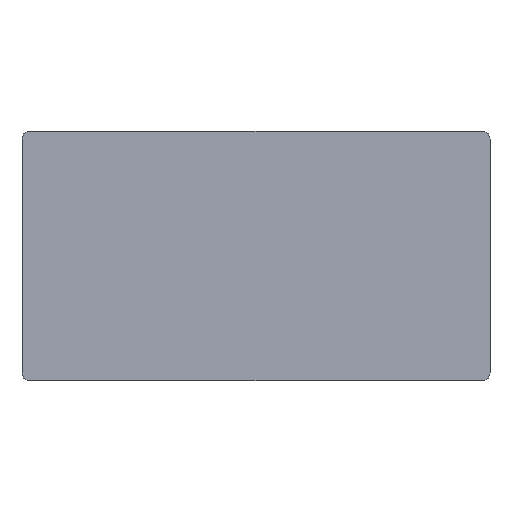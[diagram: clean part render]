
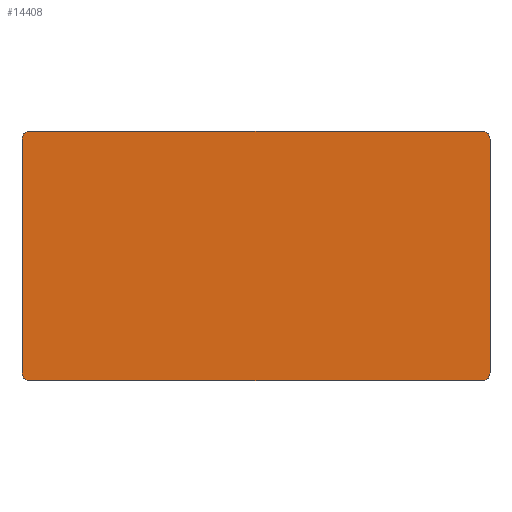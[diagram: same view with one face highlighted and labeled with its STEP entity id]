
A CAD part, front view. The second image highlights one B-rep face of the part: STEP entity #14408.
In plain terms, the highlighted planar face has unit normal (0, -1, 0).
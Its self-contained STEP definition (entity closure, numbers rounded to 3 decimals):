
#237 = CARTESIAN_POINT ( 'NONE',  ( 15., 0., 8. ) ) ;
#411 = VECTOR ( 'NONE', #12587, 1000. ) ;
#1375 = CIRCLE ( 'NONE', #11427, 0.5 ) ;
#1548 = VERTEX_POINT ( 'NONE', #9820 ) ;
#1897 = CARTESIAN_POINT ( 'NONE',  ( 15., 0., -7.5 ) ) ;
#2108 = LINE ( 'NONE', #3073, #5579 ) ;
#2768 = DIRECTION ( 'NONE',  ( 0., 0., 1. ) ) ;
#2980 = AXIS2_PLACEMENT_3D ( 'NONE', #10543, #9500, #4338 ) ;
#3030 = VERTEX_POINT ( 'NONE', #13210 ) ;
#3073 = CARTESIAN_POINT ( 'NONE',  ( -15., 0., 8. ) ) ;
#3491 = VECTOR ( 'NONE', #8330, 1000. ) ;
#4291 = PLANE ( 'NONE',  #14536 ) ;
#4338 = DIRECTION ( 'NONE',  ( 0., 0., 1. ) ) ;
#4585 = CARTESIAN_POINT ( 'NONE',  ( 14.5, 0., -7.5 ) ) ;
#4777 = ORIENTED_EDGE ( 'NONE', *, *, #12694, .T. ) ;
#5579 = VECTOR ( 'NONE', #13228, 1000. ) ;
#5629 = VERTEX_POINT ( 'NONE', #1897 ) ;
#5790 = DIRECTION ( 'NONE',  ( 0., -1., 0. ) ) ;
#5795 = ORIENTED_EDGE ( 'NONE', *, *, #6131, .T. ) ;
#5802 = DIRECTION ( 'NONE',  ( 0., -1., 0. ) ) ;
#6131 = EDGE_CURVE ( 'NONE', #10797, #1548, #11627, .T. ) ;
#6359 = CIRCLE ( 'NONE', #11522, 0.5 ) ;
#6440 = DIRECTION ( 'NONE',  ( 1., 0., 0. ) ) ;
#7084 = EDGE_CURVE ( 'NONE', #11802, #13164, #11232, .T. ) ;
#7104 = ORIENTED_EDGE ( 'NONE', *, *, #12999, .T. ) ;
#7146 = CARTESIAN_POINT ( 'NONE',  ( -14.5, 0., 7.5 ) ) ;
#7177 = DIRECTION ( 'NONE',  ( 0., 0., 1. ) ) ;
#7450 = ORIENTED_EDGE ( 'NONE', *, *, #7084, .T. ) ;
#7780 = EDGE_CURVE ( 'NONE', #9692, #10797, #13555, .T. ) ;
#7942 = CARTESIAN_POINT ( 'NONE',  ( -15., 0., -7.5 ) ) ;
#8330 = DIRECTION ( 'NONE',  ( 1., 0., 0. ) ) ;
#8344 = DIRECTION ( 'NONE',  ( 0., 0., 1. ) ) ;
#9474 = CARTESIAN_POINT ( 'NONE',  ( -14.5, 0., -8. ) ) ;
#9500 = DIRECTION ( 'NONE',  ( 0., -1., 0. ) ) ;
#9538 = ORIENTED_EDGE ( 'NONE', *, *, #15878, .T. ) ;
#9618 = CARTESIAN_POINT ( 'NONE',  ( 15., 0., -8. ) ) ;
#9692 = VERTEX_POINT ( 'NONE', #7942 ) ;
#9820 = CARTESIAN_POINT ( 'NONE',  ( 14.5, 0., -8. ) ) ;
#10115 = CARTESIAN_POINT ( 'NONE',  ( 15., 0., 7.5 ) ) ;
#10245 = EDGE_CURVE ( 'NONE', #10357, #13164, #11125, .T. ) ;
#10357 = VERTEX_POINT ( 'NONE', #15276 ) ;
#10543 = CARTESIAN_POINT ( 'NONE',  ( 14.5, 0., 7.5 ) ) ;
#10717 = DIRECTION ( 'NONE',  ( 0., 0., 1. ) ) ;
#10797 = VERTEX_POINT ( 'NONE', #9474 ) ;
#11125 = LINE ( 'NONE', #237, #11463 ) ;
#11232 = CIRCLE ( 'NONE', #2980, 0.5 ) ;
#11400 = DIRECTION ( 'NONE',  ( 0., 1., 0. ) ) ;
#11427 = AXIS2_PLACEMENT_3D ( 'NONE', #4585, #5790, #10717 ) ;
#11463 = VECTOR ( 'NONE', #6440, 1000. ) ;
#11522 = AXIS2_PLACEMENT_3D ( 'NONE', #7146, #15585, #8344 ) ;
#11611 = LINE ( 'NONE', #14012, #411 ) ;
#11627 = LINE ( 'NONE', #9618, #3491 ) ;
#11802 = VERTEX_POINT ( 'NONE', #10115 ) ;
#12022 = CARTESIAN_POINT ( 'NONE',  ( -14.5, 0., -7.5 ) ) ;
#12587 = DIRECTION ( 'NONE',  ( 0., 0., -1. ) ) ;
#12694 = EDGE_CURVE ( 'NONE', #3030, #9692, #2108, .T. ) ;
#12703 = ORIENTED_EDGE ( 'NONE', *, *, #15660, .F. ) ;
#12999 = EDGE_CURVE ( 'NONE', #10357, #3030, #6359, .T. ) ;
#13164 = VERTEX_POINT ( 'NONE', #15403 ) ;
#13186 = ORIENTED_EDGE ( 'NONE', *, *, #7780, .T. ) ;
#13210 = CARTESIAN_POINT ( 'NONE',  ( -15., 0., 7.5 ) ) ;
#13225 = EDGE_LOOP ( 'NONE', ( #5795, #9538, #12703, #7450, #15424, #7104, #4777, #13186 ) ) ;
#13228 = DIRECTION ( 'NONE',  ( 0., 0., -1. ) ) ;
#13555 = CIRCLE ( 'NONE', #15588, 0.5 ) ;
#14012 = CARTESIAN_POINT ( 'NONE',  ( 15., 0., 8. ) ) ;
#14035 = CARTESIAN_POINT ( 'NONE',  ( 15., 0., 8. ) ) ;
#14408 = ADVANCED_FACE ( 'NONE', ( #15392 ), #4291, .F. ) ;
#14536 = AXIS2_PLACEMENT_3D ( 'NONE', #14035, #11400, #2768 ) ;
#15276 = CARTESIAN_POINT ( 'NONE',  ( -14.5, 0., 8. ) ) ;
#15392 = FACE_OUTER_BOUND ( 'NONE', #13225, .T. ) ;
#15403 = CARTESIAN_POINT ( 'NONE',  ( 14.5, 0., 8. ) ) ;
#15424 = ORIENTED_EDGE ( 'NONE', *, *, #10245, .F. ) ;
#15585 = DIRECTION ( 'NONE',  ( 0., -1., 0. ) ) ;
#15588 = AXIS2_PLACEMENT_3D ( 'NONE', #12022, #5802, #7177 ) ;
#15660 = EDGE_CURVE ( 'NONE', #11802, #5629, #11611, .T. ) ;
#15878 = EDGE_CURVE ( 'NONE', #1548, #5629, #1375, .T. ) ;
